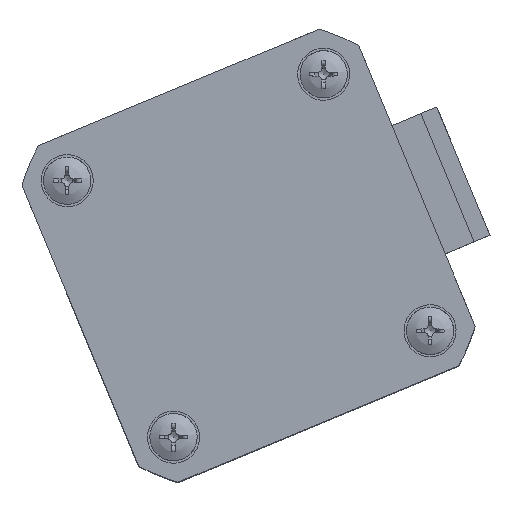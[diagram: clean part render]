
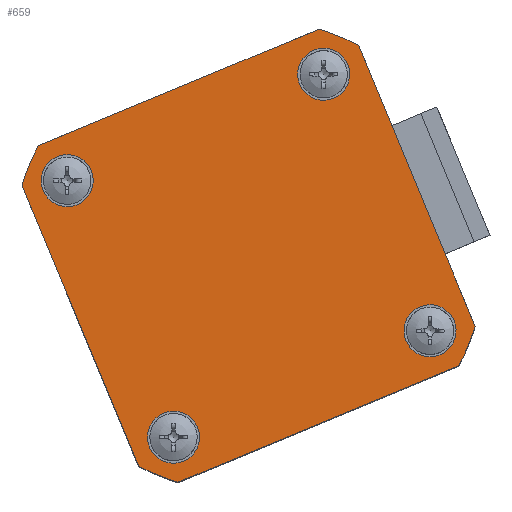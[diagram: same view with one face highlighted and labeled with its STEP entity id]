
A CAD part, top view. The second image highlights one B-rep face of the part: STEP entity #659.
In plain terms, the highlighted planar face has unit normal (0, 0, 1) as drawn and (0, 0, -1) by its records, which use the part's own axes.
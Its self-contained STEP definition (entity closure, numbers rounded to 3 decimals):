
#191=LINE('',#12643,#318);
#203=LINE('',#12667,#330);
#228=LINE('',#12718,#355);
#244=LINE('',#12751,#371);
#252=LINE('',#12774,#379);
#260=LINE('',#12986,#387);
#318=VECTOR('',#2744,1.);
#330=VECTOR('',#2756,1.);
#355=VECTOR('',#2791,1.);
#371=VECTOR('',#2809,1.);
#379=VECTOR('',#2831,1.);
#387=VECTOR('',#2899,1.);
#562=FACE_BOUND('',#1007,.T.);
#563=FACE_BOUND('',#1008,.T.);
#564=FACE_BOUND('',#1009,.T.);
#565=FACE_BOUND('',#1010,.T.);
#566=FACE_BOUND('',#1011,.T.);
#659=ADVANCED_FACE('',(#562,#563,#564,#565,#566),#792,.F.);
#792=PLANE('',#2502);
#1007=EDGE_LOOP('',(#1329));
#1008=EDGE_LOOP('',(#1330));
#1009=EDGE_LOOP('',(#1331));
#1010=EDGE_LOOP('',(#1332));
#1011=EDGE_LOOP('',(#1333,#1334,#1335,#1336,#1337,#1338,#1339,#1340,#1341,
#1342));
#1329=ORIENTED_EDGE('',*,*,#2144,.T.);
#1330=ORIENTED_EDGE('',*,*,#2145,.T.);
#1331=ORIENTED_EDGE('',*,*,#2146,.T.);
#1332=ORIENTED_EDGE('',*,*,#2147,.T.);
#1333=ORIENTED_EDGE('',*,*,#2110,.F.);
#1334=ORIENTED_EDGE('',*,*,#2119,.F.);
#1335=ORIENTED_EDGE('',*,*,#2045,.F.);
#1336=ORIENTED_EDGE('',*,*,#2148,.F.);
#1337=ORIENTED_EDGE('',*,*,#2057,.F.);
#1338=ORIENTED_EDGE('',*,*,#2127,.F.);
#1339=ORIENTED_EDGE('',*,*,#2082,.F.);
#1340=ORIENTED_EDGE('',*,*,#2125,.F.);
#1341=ORIENTED_EDGE('',*,*,#2098,.F.);
#1342=ORIENTED_EDGE('',*,*,#2121,.F.);
#1818=VERTEX_POINT('',#12642);
#1819=VERTEX_POINT('',#12644);
#1830=VERTEX_POINT('',#12666);
#1831=VERTEX_POINT('',#12668);
#1851=VERTEX_POINT('',#12717);
#1852=VERTEX_POINT('',#12719);
#1867=VERTEX_POINT('',#12750);
#1868=VERTEX_POINT('',#12752);
#1875=VERTEX_POINT('',#12773);
#1876=VERTEX_POINT('',#12775);
#1894=VERTEX_POINT('',#12979);
#1895=VERTEX_POINT('',#12981);
#1896=VERTEX_POINT('',#12983);
#1897=VERTEX_POINT('',#12985);
#2045=EDGE_CURVE('',#1818,#1819,#191,.T.);
#2057=EDGE_CURVE('',#1830,#1831,#203,.T.);
#2082=EDGE_CURVE('',#1851,#1852,#228,.T.);
#2098=EDGE_CURVE('',#1867,#1868,#244,.T.);
#2110=EDGE_CURVE('',#1875,#1876,#252,.T.);
#2119=EDGE_CURVE('',#1819,#1875,#2343,.T.);
#2121=EDGE_CURVE('',#1876,#1867,#2345,.T.);
#2125=EDGE_CURVE('',#1868,#1851,#2349,.T.);
#2127=EDGE_CURVE('',#1852,#1830,#2351,.T.);
#2144=EDGE_CURVE('',#1894,#1894,#2360,.T.);
#2145=EDGE_CURVE('',#1895,#1895,#2361,.T.);
#2146=EDGE_CURVE('',#1896,#1896,#2362,.T.);
#2147=EDGE_CURVE('',#1897,#1897,#2363,.T.);
#2148=EDGE_CURVE('',#1831,#1818,#260,.T.);
#2343=CIRCLE('',#2474,27.35);
#2345=CIRCLE('',#2477,27.35);
#2349=CIRCLE('',#2483,27.35);
#2351=CIRCLE('',#2486,27.35);
#2360=CIRCLE('',#2498,3.);
#2361=CIRCLE('',#2499,3.);
#2362=CIRCLE('',#2500,3.);
#2363=CIRCLE('',#2501,3.);
#2474=AXIS2_PLACEMENT_3D('',#12791,#2843,#2844);
#2477=AXIS2_PLACEMENT_3D('',#12794,#2849,#2850);
#2483=AXIS2_PLACEMENT_3D('',#12800,#2861,#2862);
#2486=AXIS2_PLACEMENT_3D('',#12803,#2867,#2868);
#2498=AXIS2_PLACEMENT_3D('',#12978,#2891,#2892);
#2499=AXIS2_PLACEMENT_3D('',#12980,#2893,#2894);
#2500=AXIS2_PLACEMENT_3D('',#12982,#2895,#2896);
#2501=AXIS2_PLACEMENT_3D('',#12984,#2897,#2898);
#2502=AXIS2_PLACEMENT_3D('',#12987,#2900,#2901);
#2744=DIRECTION('',(0.,-1.,0.));
#2756=DIRECTION('',(0.,-1.,0.));
#2791=DIRECTION('',(-1.,0.,0.));
#2809=DIRECTION('',(0.,1.,0.));
#2831=DIRECTION('',(1.,0.,0.));
#2843=DIRECTION('',(0.,0.,1.));
#2844=DIRECTION('',(1.,0.,0.));
#2849=DIRECTION('',(0.,0.,1.));
#2850=DIRECTION('',(1.,0.,0.));
#2861=DIRECTION('',(0.,0.,1.));
#2862=DIRECTION('',(1.,0.,0.));
#2867=DIRECTION('',(0.,0.,1.));
#2868=DIRECTION('',(1.,0.,0.));
#2891=DIRECTION('',(0.,0.,1.));
#2892=DIRECTION('',(0.,1.,0.));
#2893=DIRECTION('',(0.,0.,1.));
#2894=DIRECTION('',(1.,0.,0.));
#2895=DIRECTION('',(0.,0.,1.));
#2896=DIRECTION('',(0.,-1.,0.));
#2897=DIRECTION('',(0.,0.,1.));
#2898=DIRECTION('',(-1.,0.,0.));
#2899=DIRECTION('',(0.,-1.,0.));
#2900=DIRECTION('',(0.,0.,1.));
#2901=DIRECTION('',(1.,0.,0.));
#12642=CARTESIAN_POINT('',(-21.,-8.478,0.));
#12643=CARTESIAN_POINT('',(-21.,17.522,0.));
#12644=CARTESIAN_POINT('',(-21.,-17.522,0.));
#12666=CARTESIAN_POINT('',(-21.,17.522,0.));
#12667=CARTESIAN_POINT('',(-21.,17.522,0.));
#12668=CARTESIAN_POINT('',(-21.,7.522,0.));
#12717=CARTESIAN_POINT('',(17.522,21.,0.));
#12718=CARTESIAN_POINT('',(17.522,21.,0.));
#12719=CARTESIAN_POINT('',(-17.522,21.,0.));
#12750=CARTESIAN_POINT('',(21.,-17.522,0.));
#12751=CARTESIAN_POINT('',(21.,-17.522,0.));
#12752=CARTESIAN_POINT('',(21.,17.522,0.));
#12773=CARTESIAN_POINT('',(-17.522,-21.,0.));
#12774=CARTESIAN_POINT('',(-17.522,-21.,0.));
#12775=CARTESIAN_POINT('',(17.522,-21.,0.));
#12791=CARTESIAN_POINT('',(0.,0.,0.));
#12794=CARTESIAN_POINT('',(0.,0.,0.));
#12800=CARTESIAN_POINT('',(0.,0.,0.));
#12803=CARTESIAN_POINT('',(0.,0.,0.));
#12978=CARTESIAN_POINT('',(-16.,16.,0.));
#12979=CARTESIAN_POINT('',(-16.,19.,0.));
#12980=CARTESIAN_POINT('',(16.,16.,0.));
#12981=CARTESIAN_POINT('',(19.,16.,0.));
#12982=CARTESIAN_POINT('',(16.,-16.,0.));
#12983=CARTESIAN_POINT('',(16.,-19.,0.));
#12984=CARTESIAN_POINT('',(-16.,-16.,0.));
#12985=CARTESIAN_POINT('',(-19.,-16.,0.));
#12986=CARTESIAN_POINT('',(-21.,17.522,0.));
#12987=CARTESIAN_POINT('',(0.,0.,0.));
